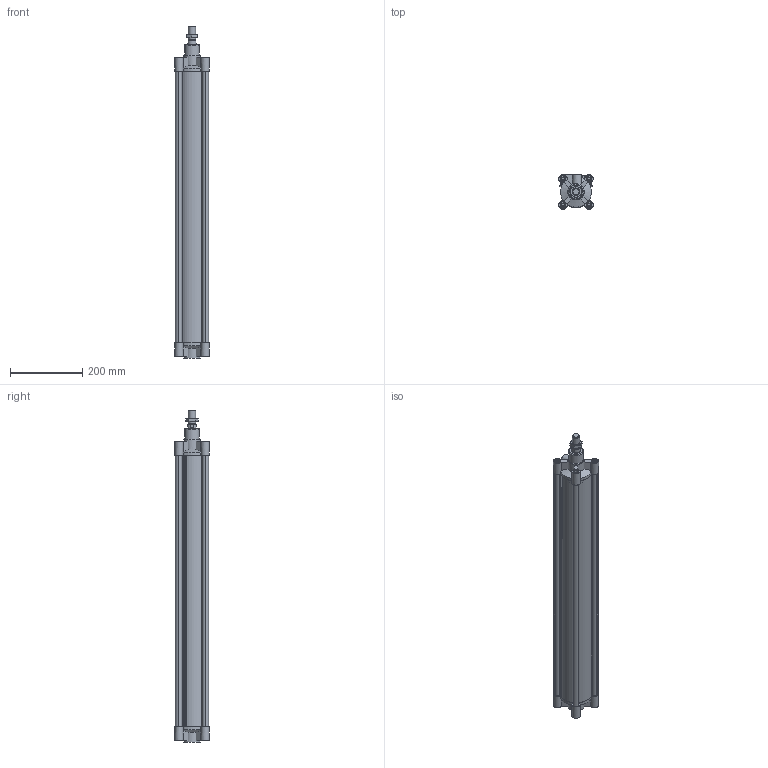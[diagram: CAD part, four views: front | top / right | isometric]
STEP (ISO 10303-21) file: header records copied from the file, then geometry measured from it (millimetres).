
FILE_DESCRIPTION((''),'2;1');
FILE_NAME('I:\Area Tecnica\Disegni\VARIE-3D\Componenti\ECOLIGHT\139#.##_0000_01\stp\139#_80_0700_01.iam.stp','2012-01-28T08:03:31',(''),(''),'Autodesk Inventor 2012','Autodesk Inventor 2012','');
FILE_SCHEMA(('AUTOMOTIVE_DESIGN { 1 0 10303 214 1 1 1 1 }'));
Length unit declared in the file: millimetre
Products named in the file (6): 139#_80_0700_01; CPL080_004-700; CPL080-001-01; CPL080-002-01; CPL_80_0700; 1320_80_18F
Assembly tree (5 placements, depth 2):
  139#_80_0700_01
    CPL080_004-700
    CPL080-001-01
    CPL080-002-01
    CPL_80_0700
    1320_80_18F
Bounding box: 95 x 95 x 918.5 mm (x, y, z)
Volume: 2161053.3 mm3; surface area: 836963.7 mm2
Topology: 5 solids, 5 shells, 264 faces, 648 edges, 426 vertices
Faces by surface type: plane 154, cylinder 83, cone 26, torus 1
Full cylindrical faces by diameter (mm): 8.5 x8, 12 x2, 15.2 x2, 16 x8, 16.5 x8, 18 x1, 18.5 x1, 20 x1, 24.5 x1, 25 x2, 41 x1, 45 x2, 80 x4
Entity records: 7874 total; most frequent: CARTESIAN_POINT 1483, DIRECTION 1288, ORIENTED_EDGE 1186, EDGE_CURVE 593, AXIS2_PLACEMENT_3D 476, VERTEX_POINT 419, EDGE_LOOP 358, VECTOR 336
